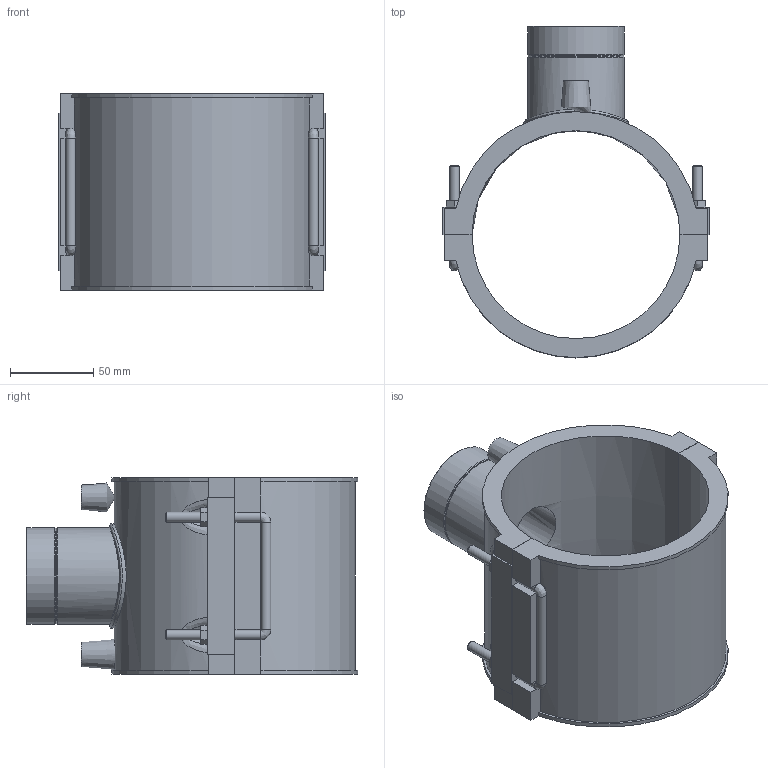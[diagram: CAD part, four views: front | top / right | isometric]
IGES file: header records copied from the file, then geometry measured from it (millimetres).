
Global section: file name: 493804125015.ipt; native system: Autodesk Inventor 2015; preprocessor: unknown; author: KIM; date: 20171106.094105; units: millimetre
Bounding box: 160 x 199.45 x 118 mm (x, y, z)
Volume: 634916.2 mm3; surface area: 148645.5 mm2
Topology: 2 solids, 4 shells, 162 faces, 408 edges, 258 vertices
Faces by surface type: plane 98, cylinder 28, revolution 14, bspline 13, cone 9
Full cylindrical faces by diameter (mm): 4 x2, 6 x8, 57.298 x1, 58.298 x2, 62.783 x1
